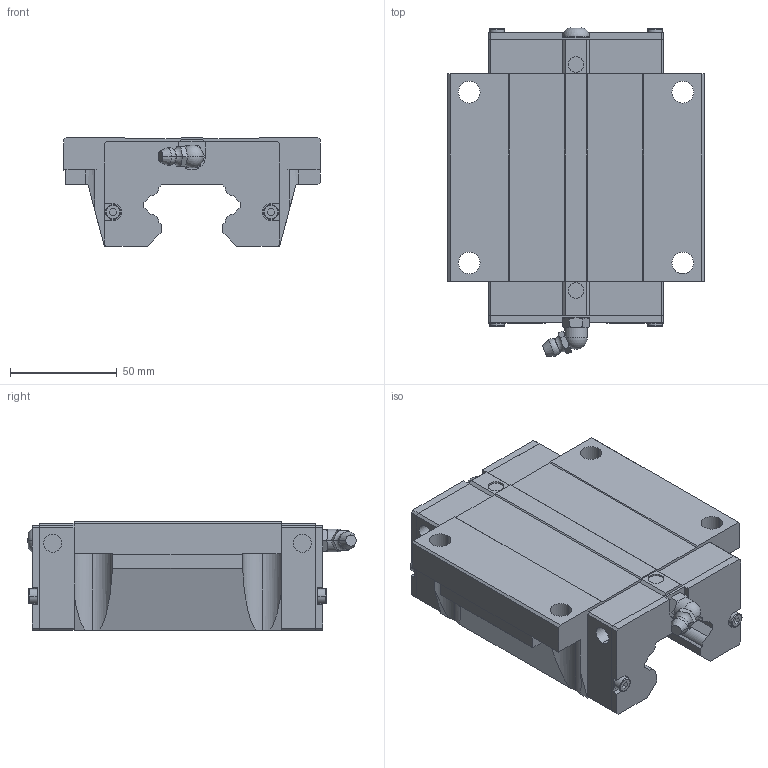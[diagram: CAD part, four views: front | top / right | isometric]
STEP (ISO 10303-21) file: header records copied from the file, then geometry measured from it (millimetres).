
FILE_DESCRIPTION(('no description'),'unknown implementation level');
FILE_NAME('QHW45CC_Z0_H_SS_22.stp',' ',('HIWIN GmbH'),('CADClick - KiM GmbH - www.kimweb.de'),'unknown preprocess','ACIS','unknown authorization');
FILE_SCHEMA(('automotive_design'));
Length unit declared in the file: millimetre
Products named in the file (1): QHW45CC Z0 H SS
Bounding box: 120 x 153.72 x 50.8 mm (x, y, z)
Volume: 497568.5 mm3; surface area: 64464.5 mm2
Topology: 1 solids, 6 shells, 311 faces, 811 edges, 521 vertices
Faces by surface type: plane 197, cylinder 68, torus 30, cone 14, sphere 2
Entity records: 18840 total; most frequent: CARTESIAN_POINT 1942, STYLED_ITEM 1642, PRESENTATION_STYLE_ASSIGNMENT 1642, COLOUR_RGB 1642, ORIENTED_EDGE 1618, DIRECTION 1614, EDGE_CURVE 809, CURVE_STYLE 809
